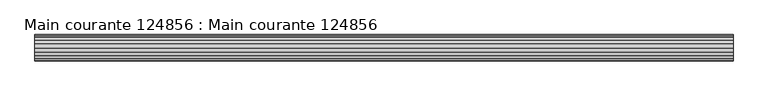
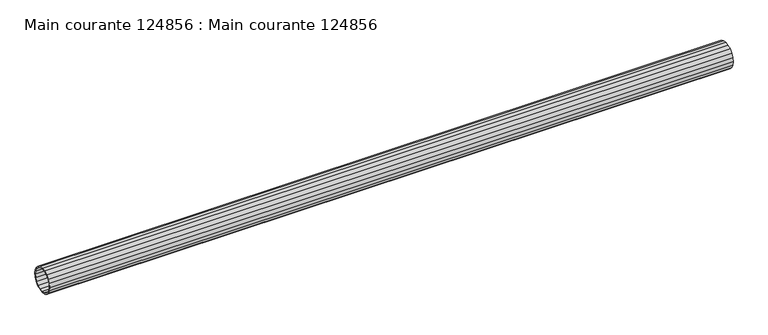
"""IFC4 building model written with IfcOpenShell, lengths in millimetres: beam geometry, Main courante 124856 : Main courante 124856."""

from ifc_helpers import new_model, si_unit, frame, origin, place, context, project, spatial, polyline, outline, extrude, source, transform, mapped, element, save


def main_courante_124856_main_courante_124856_ec8ec56a(model_context):
    return source(origin(), model_context, "Body", "SweptSolid", [
        extrude(outline(polyline([(-24956.0, 8765.0), (-24954.8180149, 8772.4627604), (-24951.3877604, 8779.1950138), (-24946.0450138, 8784.5377604), (-24939.3127604, 8787.9680149), (-24931.85, 8789.15), (-24924.3872396, 8787.9680149), (-24917.6549862, 8784.5377604), (-24912.3122396, 8779.1950138), (-24908.8819851, 8772.4627604), (-24907.7, 8765.0), (-24908.8819851, 8757.5372396), (-24912.3122396, 8750.8049862), (-24917.6549862, 8745.4622396), (-24924.3872396, 8742.0319851), (-24931.85, 8740.85), (-24939.3127604, 8742.0319851), (-24946.0450138, 8745.4622396), (-24951.3877604, 8750.8049862), (-24954.8180149, 8757.5372396), (-24956.0, 8765.0)]), holes=[polyline([(-24953.5, 8765.0), (-24952.4403736, 8758.3097821), (-24949.3652179, 8752.2744493), (-24944.5755507, 8747.4847821), (-24938.5402179, 8744.4096264), (-24931.85, 8743.35), (-24925.1597821, 8744.4096264), (-24919.1244493, 8747.4847821), (-24914.3347821, 8752.2744493), (-24911.2596264, 8758.3097821), (-24910.2, 8765.0), (-24911.2596264, 8771.6902179), (-24914.3347821, 8777.7255507), (-24919.1244493, 8782.5152179), (-24925.1597821, 8785.5903736), (-24931.85, 8786.65), (-24938.5402179, 8785.5903736), (-24944.5755507, 8782.5152179), (-24949.3652179, 8777.7255507), (-24952.4403736, 8771.6902179), (-24953.5, 8765.0)])]), frame((5015.9999999, 0.0, 0.0), z_axis=(1.0, 0.0, 0.0), x_axis=(0.0, 1.0, 0.0)), (0.0, 0.0, 1.0), 1285.5),
    ])


if __name__ == "__main__":
    model = new_model("IFC4")
    model_context = context("Model", 3, world=origin())
    ifc_project = project(units=[si_unit("LENGTHUNIT", "METRE", prefix="MILLI")], contexts=[model_context])
    site = spatial("IfcSite", under=ifc_project)
    building = spatial("IfcBuilding", under=site)
    placement = place(None, origin())
    main_courante_124856_main_courante_124856_shape = main_courante_124856_main_courante_124856_ec8ec56a(model_context)
    element("IfcBeam", 1, ObjectType="Main courante 124856 : Main courante 124856", at=placement, inside=building, context=model_context, shape_type="MappedRepresentation", body=[
        mapped(main_courante_124856_main_courante_124856_shape, transform((0.0, 0.0, 0.0), x_axis=(1.0, 0.0, 0.0), y_axis=(0.0, 1.0, 0.0), z_axis=(0.0, 0.0, 1.0))),
    ])
    save(model, "model.ifc")
